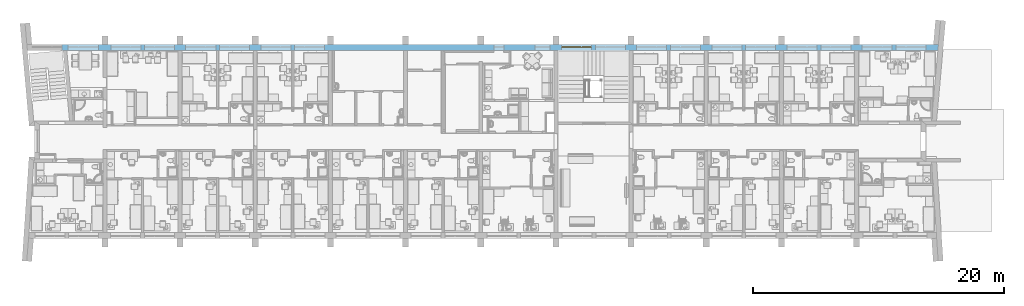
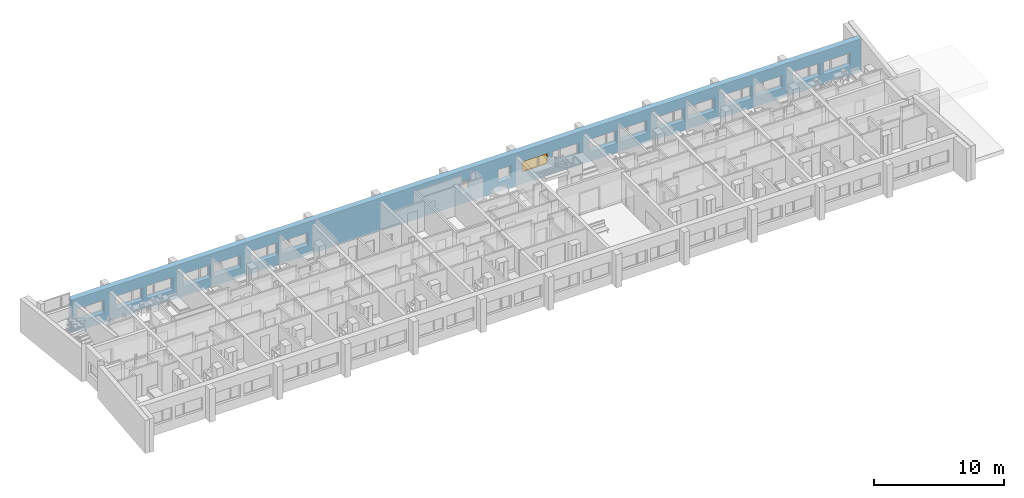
# One storey, part 24 of 172: 1 window, 19 openings, plus 1 element that does not belong to this part.
"""IFC2X3 building model written with IfcOpenShell, lengths in millimetres."""

from ifc_helpers import new_model, entity, si_unit, converted_unit, money_unit, direction, frame, origin_with_axes, place, context, subcontext, project, spatial, polyline, outline, extrude, open_shell, faceted_brep, surface_model, source, transform, mapped, material, material_list, layer, layer_set, layer_usage, type_object, element, fill, save


model = new_model("IFC2X3")

# Units and contexts
model_context = context("Model", 3, precision=1e-05, world=origin_with_axes(), true_north=direction((0.0, 1.0)))
body_context = subcontext(model_context, "Body", "Model", "MODEL_VIEW")
ifc_project = project(units=[si_unit("LENGTHUNIT", "METRE", prefix="MILLI"), si_unit("AREAUNIT", "SQUARE_METRE"), si_unit("VOLUMEUNIT", "CUBIC_METRE"), converted_unit("PLANEANGLEUNIT", "DEGREE", entity("IfcPlaneAngleMeasure", 0.0174532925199), si_unit("PLANEANGLEUNIT", "RADIAN"), dimensions=[0, 0, 0, 0, 0, 0, 0]), si_unit("SOLIDANGLEUNIT", "STERADIAN"), money_unit("USD"), converted_unit("TIMEUNIT", "Year", entity("IfcTimeMeasure", 31556926.0), si_unit("TIMEUNIT", "SECOND"), dimensions=[0, 0, 0, 0, 0, 0, 0]), si_unit("MASSUNIT", "GRAM"), si_unit("THERMODYNAMICTEMPERATUREUNIT", "DEGREE_CELSIUS"), si_unit("LUMINOUSINTENSITYUNIT", "LUMEN")], contexts=[model_context])

# Site, building, storey
site_placement = place(None, origin_with_axes())
site = spatial("IfcSite", under=ifc_project, at=site_placement, Name="Site", CompositionType="ELEMENT")
building_placement = place(site_placement, origin_with_axes())
building = spatial("IfcBuilding", under=site, at=building_placement, Name="Building", CompositionType="ELEMENT")
storey_placement = place(building_placement, frame((0.0, 0.0, 3200.0), z_axis=(0.0, 0.0, 1.0), x_axis=(1.0, 0.0, 0.0)))
storey = spatial("IfcBuildingStorey", under=building, at=storey_placement, Name="3KORRUS", CompositionType="ELEMENT", Elevation=3200.0)

# Wall, openings, window
ifc_material_1 = material(Name="Olemasolevad seinad tellis, uus viimistlus")
ifc_layer = layer(ifc_material_1, 500.0, ventilated="UNKNOWN")
ifc_layer_set = layer_set([ifc_layer], Name="Olemasolevad seinad tellis, uus viimistlus 500")
ifc_layer_usage = layer_usage(ifc_layer_set, "AXIS2", "POSITIVE", -100.0)
wall_type = type_object("IfcWallType", Name="Olemasolevad seinad tellis, uus viimistlus 500", PredefinedType="NOTDEFINED")
wall_placement = place(storey_placement, frame((-51569.3388124, -5039.6041088, 0.0), z_axis=(0.0, 0.0, 1.0), x_axis=(1.0, 0.0, 0.0)))
wall = element("IfcWallStandardCase", 1, at=wall_placement, inside=storey, type_object=wall_type, material=ifc_layer_usage, Name="VS1", ObjectType="VS1", context=body_context, shape_type="SweptSolid", body=[
    extrude(outline(polyline([(0.0, -100.0), (69914.7195482, -100.0), (69959.6995146, 400.0), (0.0, 400.0), (0.0, -100.0)])), origin_with_axes(), (0.0, 0.0, 1.0), 3100.0),
])
opening_1_placement = place(wall_placement, frame((34879.0421091, 0.0, 900.0), z_axis=(0.0, 0.0, 1.0), x_axis=(1.0, 0.0, 0.0)))
element("IfcOpeningElement", 2, at=opening_1_placement, cuts=wall, Name="WD - 001", context=body_context, shape_type="SweptSolid", body=[
    extrude(outline(polyline([(-400.0, 1200.0), (-400.0, 0.0), (400.0, 0.0), (400.0, 1200.0), (-400.0, 1200.0)])), frame((0.0, 200.0, 0.0), z_axis=(0.0, -1.0, 0.0), x_axis=(1.0, 0.0, 0.0)), (0.0, 0.0, 1.0), 800.0),
    extrude(outline(polyline([(-400.0, 0.0), (-400.0, -1200.0), (400.0, -1200.0), (400.0, 0.0), (-400.0, 0.0)])), frame((0.0, 200.0, 0.0), z_axis=(0.0, 1.0, 0.0), x_axis=(1.0, 0.0, 0.0)), (0.0, 0.0, 1.0), 700.0),
])
opening_2_placement = place(wall_placement, frame((38352.6323068, 0.0, 900.0), z_axis=(0.0, 0.0, 1.0), x_axis=(1.0, 0.0, 0.0)))
element("IfcOpeningElement", 3, at=opening_2_placement, cuts=wall, Name="A3", context=body_context, shape_type="SweptSolid", body=[
    extrude(outline(polyline([(-600.0, 1200.0), (-600.0, 0.0), (600.0, 0.0), (600.0, 1200.0), (-600.0, 1200.0)])), frame((0.0, 200.0, 0.0), z_axis=(0.0, -1.0, 0.0), x_axis=(1.0, 0.0, 0.0)), (0.0, 0.0, 1.0), 800.0),
    extrude(outline(polyline([(-600.0, 0.0), (-600.0, -1200.0), (600.0, -1200.0), (600.0, 0.0), (-600.0, 0.0)])), frame((0.0, 200.0, 0.0), z_axis=(0.0, 1.0, 0.0), x_axis=(1.0, 0.0, 0.0)), (0.0, 0.0, 1.0), 700.0),
])
opening_3_placement = place(wall_placement, frame((1700.0, 0.0, 900.0), z_axis=(0.0, 0.0, 1.0), x_axis=(1.0, 0.0, 0.0)))
element("IfcOpeningElement", 4, at=opening_3_placement, cuts=wall, Name="A1", context=body_context, shape_type="SweptSolid", body=[
    extrude(outline(polyline([(1200.0, 1200.0), (-1200.0, 1200.0), (-1200.0, 0.0), (1200.0, 0.0), (1200.0, 1200.0)])), frame((0.0, 200.0, 0.0), z_axis=(0.0, -1.0, 0.0), x_axis=(1.0, 0.0, 0.0)), (0.0, 0.0, 1.0), 800.0),
    extrude(outline(polyline([(1200.0, 0.0), (-1200.0, 0.0), (-1200.0, -1200.0), (1200.0, -1200.0), (1200.0, 0.0)])), frame((0.0, 200.0, 0.0), z_axis=(0.0, 1.0, 0.0), x_axis=(1.0, 0.0, 0.0)), (0.0, 0.0, 1.0), 700.0),
])
opening_4_placement = place(wall_placement, frame((7795.91085613, 0.0, 900.0), z_axis=(0.0, 0.0, 1.0), x_axis=(1.0, 0.0, 0.0)))
element("IfcOpeningElement", 5, at=opening_4_placement, cuts=wall, Name="A1", context=body_context, shape_type="SweptSolid", body=[
    extrude(outline(polyline([(1200.0, 1200.0), (-1200.0, 1200.0), (-1200.0, 0.0), (1200.0, 0.0), (1200.0, 1200.0)])), frame((0.0, 200.0, 0.0), z_axis=(0.0, -1.0, 0.0), x_axis=(1.0, 0.0, 0.0)), (0.0, 0.0, 1.0), 800.0),
    extrude(outline(polyline([(1200.0, 0.0), (-1200.0, 0.0), (-1200.0, -1200.0), (1200.0, -1200.0), (1200.0, 0.0)])), frame((0.0, 200.0, 0.0), z_axis=(0.0, 1.0, 0.0), x_axis=(1.0, 0.0, 0.0)), (0.0, 0.0, 1.0), 700.0),
])
opening_5_placement = place(wall_placement, frame((5095.91085613, 0.0, 900.0), z_axis=(0.0, 0.0, 1.0), x_axis=(1.0, 0.0, 0.0)))
element("IfcOpeningElement", 6, at=opening_5_placement, cuts=wall, Name="A2", context=body_context, shape_type="SweptSolid", body=[
    extrude(outline(polyline([(-1200.0, 1200.0), (-1200.0, 0.0), (1200.0, 0.0), (1200.0, 1200.0), (-1200.0, 1200.0)])), frame((0.0, 200.0, 0.0), z_axis=(0.0, -1.0, 0.0), x_axis=(1.0, 0.0, 0.0)), (0.0, 0.0, 1.0), 800.0),
    extrude(outline(polyline([(-1200.0, 0.0), (-1200.0, -1200.0), (1200.0, -1200.0), (1200.0, 0.0), (-1200.0, 0.0)])), frame((0.0, 200.0, 0.0), z_axis=(0.0, 1.0, 0.0), x_axis=(1.0, 0.0, 0.0)), (0.0, 0.0, 1.0), 700.0),
])
opening_6_placement = place(wall_placement, frame((13779.0421091, 0.0, 900.0), z_axis=(0.0, 0.0, 1.0), x_axis=(1.0, 0.0, 0.0)))
element("IfcOpeningElement", 7, at=opening_6_placement, cuts=wall, Name="A1", context=body_context, shape_type="SweptSolid", body=[
    extrude(outline(polyline([(1200.0, 1200.0), (-1200.0, 1200.0), (-1200.0, 0.0), (1200.0, 0.0), (1200.0, 1200.0)])), frame((0.0, 200.0, 0.0), z_axis=(0.0, -1.0, 0.0), x_axis=(1.0, 0.0, 0.0)), (0.0, 0.0, 1.0), 800.0),
    extrude(outline(polyline([(1200.0, 0.0), (-1200.0, 0.0), (-1200.0, -1200.0), (1200.0, -1200.0), (1200.0, 0.0)])), frame((0.0, 200.0, 0.0), z_axis=(0.0, 1.0, 0.0), x_axis=(1.0, 0.0, 0.0)), (0.0, 0.0, 1.0), 700.0),
])
opening_7_placement = place(wall_placement, frame((11079.0421091, 0.0, 900.0), z_axis=(0.0, 0.0, 1.0), x_axis=(1.0, 0.0, 0.0)))
element("IfcOpeningElement", 8, at=opening_7_placement, cuts=wall, Name="A2", context=body_context, shape_type="SweptSolid", body=[
    extrude(outline(polyline([(-1200.0, 1200.0), (-1200.0, 0.0), (1200.0, 0.0), (1200.0, 1200.0), (-1200.0, 1200.0)])), frame((0.0, 200.0, 0.0), z_axis=(0.0, -1.0, 0.0), x_axis=(1.0, 0.0, 0.0)), (0.0, 0.0, 1.0), 800.0),
    extrude(outline(polyline([(-1200.0, 0.0), (-1200.0, -1200.0), (1200.0, -1200.0), (1200.0, 0.0), (-1200.0, 0.0)])), frame((0.0, 200.0, 0.0), z_axis=(0.0, 1.0, 0.0), x_axis=(1.0, 0.0, 0.0)), (0.0, 0.0, 1.0), 700.0),
])
opening_8_placement = place(wall_placement, frame((43769.0421091, 0.0, 900.0), z_axis=(0.0, 0.0, 1.0), x_axis=(1.0, 0.0, 0.0)))
element("IfcOpeningElement", 9, at=opening_8_placement, cuts=wall, Name="A1", context=body_context, shape_type="SweptSolid", body=[
    extrude(outline(polyline([(1200.0, 1200.0), (-1200.0, 1200.0), (-1200.0, 0.0), (1200.0, 0.0), (1200.0, 1200.0)])), frame((0.0, 200.0, 0.0), z_axis=(0.0, -1.0, 0.0), x_axis=(1.0, 0.0, 0.0)), (0.0, 0.0, 1.0), 800.0),
    extrude(outline(polyline([(1200.0, 0.0), (-1200.0, 0.0), (-1200.0, -1200.0), (1200.0, -1200.0), (1200.0, 0.0)])), frame((0.0, 200.0, 0.0), z_axis=(0.0, 1.0, 0.0), x_axis=(1.0, 0.0, 0.0)), (0.0, 0.0, 1.0), 700.0),
])
opening_9_placement = place(wall_placement, frame((41069.0421091, 0.0, 900.0), z_axis=(0.0, 0.0, 1.0), x_axis=(1.0, 0.0, 0.0)))
opening_9 = element("IfcOpeningElement", 10, at=opening_9_placement, cuts=wall, Name="A2", context=body_context, shape_type="SweptSolid", body=[
    extrude(outline(polyline([(-1200.0, 1200.0), (-1200.0, 0.0), (1200.0, 0.0), (1200.0, 1200.0), (-1200.0, 1200.0)])), frame((0.0, 200.0, 0.0), z_axis=(0.0, -1.0, 0.0), x_axis=(1.0, 0.0, 0.0)), (0.0, 0.0, 1.0), 800.0),
    extrude(outline(polyline([(-1200.0, 0.0), (-1200.0, -1200.0), (1200.0, -1200.0), (1200.0, 0.0), (-1200.0, 0.0)])), frame((0.0, 200.0, 0.0), z_axis=(0.0, 1.0, 0.0), x_axis=(1.0, 0.0, 0.0)), (0.0, 0.0, 1.0), 700.0),
])
opening_10_placement = place(wall_placement, frame((49769.0421091, 0.0, 900.0), z_axis=(0.0, 0.0, 1.0), x_axis=(1.0, 0.0, 0.0)))
element("IfcOpeningElement", 11, at=opening_10_placement, cuts=wall, Name="A1", context=body_context, shape_type="SweptSolid", body=[
    extrude(outline(polyline([(1200.0, 1200.0), (-1200.0, 1200.0), (-1200.0, 0.0), (1200.0, 0.0), (1200.0, 1200.0)])), frame((0.0, 200.0, 0.0), z_axis=(0.0, -1.0, 0.0), x_axis=(1.0, 0.0, 0.0)), (0.0, 0.0, 1.0), 800.0),
    extrude(outline(polyline([(1200.0, 0.0), (-1200.0, 0.0), (-1200.0, -1200.0), (1200.0, -1200.0), (1200.0, 0.0)])), frame((0.0, 200.0, 0.0), z_axis=(0.0, 1.0, 0.0), x_axis=(1.0, 0.0, 0.0)), (0.0, 0.0, 1.0), 700.0),
])
opening_11_placement = place(wall_placement, frame((47069.0421091, 0.0, 900.0), z_axis=(0.0, 0.0, 1.0), x_axis=(1.0, 0.0, 0.0)))
element("IfcOpeningElement", 12, at=opening_11_placement, cuts=wall, Name="A2", context=body_context, shape_type="SweptSolid", body=[
    extrude(outline(polyline([(-1200.0, 1200.0), (-1200.0, 0.0), (1200.0, 0.0), (1200.0, 1200.0), (-1200.0, 1200.0)])), frame((0.0, 200.0, 0.0), z_axis=(0.0, -1.0, 0.0), x_axis=(1.0, 0.0, 0.0)), (0.0, 0.0, 1.0), 800.0),
    extrude(outline(polyline([(-1200.0, 0.0), (-1200.0, -1200.0), (1200.0, -1200.0), (1200.0, 0.0), (-1200.0, 0.0)])), frame((0.0, 200.0, 0.0), z_axis=(0.0, 1.0, 0.0), x_axis=(1.0, 0.0, 0.0)), (0.0, 0.0, 1.0), 700.0),
])
opening_12_placement = place(wall_placement, frame((55769.0421091, 0.0, 900.0), z_axis=(0.0, 0.0, 1.0), x_axis=(1.0, 0.0, 0.0)))
element("IfcOpeningElement", 13, at=opening_12_placement, cuts=wall, Name="A1", context=body_context, shape_type="SweptSolid", body=[
    extrude(outline(polyline([(1200.0, 1200.0), (-1200.0, 1200.0), (-1200.0, 0.0), (1200.0, 0.0), (1200.0, 1200.0)])), frame((0.0, 200.0, 0.0), z_axis=(0.0, -1.0, 0.0), x_axis=(1.0, 0.0, 0.0)), (0.0, 0.0, 1.0), 800.0),
    extrude(outline(polyline([(1200.0, 0.0), (-1200.0, 0.0), (-1200.0, -1200.0), (1200.0, -1200.0), (1200.0, 0.0)])), frame((0.0, 200.0, 0.0), z_axis=(0.0, 1.0, 0.0), x_axis=(1.0, 0.0, 0.0)), (0.0, 0.0, 1.0), 700.0),
])
opening_13_placement = place(wall_placement, frame((53069.0421091, 0.0, 900.0), z_axis=(0.0, 0.0, 1.0), x_axis=(1.0, 0.0, 0.0)))
element("IfcOpeningElement", 14, at=opening_13_placement, cuts=wall, Name="A2", context=body_context, shape_type="SweptSolid", body=[
    extrude(outline(polyline([(-1200.0, 1200.0), (-1200.0, 0.0), (1200.0, 0.0), (1200.0, 1200.0), (-1200.0, 1200.0)])), frame((0.0, 200.0, 0.0), z_axis=(0.0, -1.0, 0.0), x_axis=(1.0, 0.0, 0.0)), (0.0, 0.0, 1.0), 800.0),
    extrude(outline(polyline([(-1200.0, 0.0), (-1200.0, -1200.0), (1200.0, -1200.0), (1200.0, 0.0), (-1200.0, 0.0)])), frame((0.0, 200.0, 0.0), z_axis=(0.0, 1.0, 0.0), x_axis=(1.0, 0.0, 0.0)), (0.0, 0.0, 1.0), 700.0),
])
opening_14_placement = place(wall_placement, frame((61769.0421091, 0.0, 900.0), z_axis=(0.0, 0.0, 1.0), x_axis=(1.0, 0.0, 0.0)))
element("IfcOpeningElement", 15, at=opening_14_placement, cuts=wall, Name="A1", context=body_context, shape_type="SweptSolid", body=[
    extrude(outline(polyline([(1200.0, 1200.0), (-1200.0, 1200.0), (-1200.0, 0.0), (1200.0, 0.0), (1200.0, 1200.0)])), frame((0.0, 200.0, 0.0), z_axis=(0.0, -1.0, 0.0), x_axis=(1.0, 0.0, 0.0)), (0.0, 0.0, 1.0), 800.0),
    extrude(outline(polyline([(1200.0, 0.0), (-1200.0, 0.0), (-1200.0, -1200.0), (1200.0, -1200.0), (1200.0, 0.0)])), frame((0.0, 200.0, 0.0), z_axis=(0.0, 1.0, 0.0), x_axis=(1.0, 0.0, 0.0)), (0.0, 0.0, 1.0), 700.0),
])
opening_15_placement = place(wall_placement, frame((59069.0421091, 0.0, 900.0), z_axis=(0.0, 0.0, 1.0), x_axis=(1.0, 0.0, 0.0)))
element("IfcOpeningElement", 16, at=opening_15_placement, cuts=wall, Name="A2", context=body_context, shape_type="SweptSolid", body=[
    extrude(outline(polyline([(-1200.0, 1200.0), (-1200.0, 0.0), (1200.0, 0.0), (1200.0, 1200.0), (-1200.0, 1200.0)])), frame((0.0, 200.0, 0.0), z_axis=(0.0, -1.0, 0.0), x_axis=(1.0, 0.0, 0.0)), (0.0, 0.0, 1.0), 800.0),
    extrude(outline(polyline([(-1200.0, 0.0), (-1200.0, -1200.0), (1200.0, -1200.0), (1200.0, 0.0), (-1200.0, 0.0)])), frame((0.0, 200.0, 0.0), z_axis=(0.0, 1.0, 0.0), x_axis=(1.0, 0.0, 0.0)), (0.0, 0.0, 1.0), 700.0),
])
opening_16_placement = place(wall_placement, frame((67773.3244043, 0.0, 900.0), z_axis=(0.0, 0.0, 1.0), x_axis=(1.0, 0.0, 0.0)))
element("IfcOpeningElement", 17, at=opening_16_placement, cuts=wall, Name="A1", context=body_context, shape_type="SweptSolid", body=[
    extrude(outline(polyline([(1200.0, 1200.0), (-1200.0, 1200.0), (-1200.0, 0.0), (1200.0, 0.0), (1200.0, 1200.0)])), frame((0.0, 200.0, 0.0), z_axis=(0.0, -1.0, 0.0), x_axis=(1.0, 0.0, 0.0)), (0.0, 0.0, 1.0), 800.0),
    extrude(outline(polyline([(1200.0, 0.0), (-1200.0, 0.0), (-1200.0, -1200.0), (1200.0, -1200.0), (1200.0, 0.0)])), frame((0.0, 200.0, 0.0), z_axis=(0.0, 1.0, 0.0), x_axis=(1.0, 0.0, 0.0)), (0.0, 0.0, 1.0), 700.0),
])
opening_17_placement = place(wall_placement, frame((65073.3244043, 0.0, 900.0), z_axis=(0.0, 0.0, 1.0), x_axis=(1.0, 0.0, 0.0)))
element("IfcOpeningElement", 18, at=opening_17_placement, cuts=wall, Name="A2", context=body_context, shape_type="SweptSolid", body=[
    extrude(outline(polyline([(-1200.0, 1200.0), (-1200.0, 0.0), (1200.0, 0.0), (1200.0, 1200.0), (-1200.0, 1200.0)])), frame((0.0, 200.0, 0.0), z_axis=(0.0, -1.0, 0.0), x_axis=(1.0, 0.0, 0.0)), (0.0, 0.0, 1.0), 800.0),
    extrude(outline(polyline([(-1200.0, 0.0), (-1200.0, -1200.0), (1200.0, -1200.0), (1200.0, 0.0), (-1200.0, 0.0)])), frame((0.0, 200.0, 0.0), z_axis=(0.0, 1.0, 0.0), x_axis=(1.0, 0.0, 0.0)), (0.0, 0.0, 1.0), 700.0),
])
opening_18_placement = place(wall_placement, frame((19767.4765851, 0.0, 900.0), z_axis=(0.0, 0.0, 1.0), x_axis=(1.0, 0.0, 0.0)))
element("IfcOpeningElement", 19, at=opening_18_placement, cuts=wall, Name="A1", context=body_context, shape_type="SweptSolid", body=[
    extrude(outline(polyline([(1200.0, 1200.0), (-1200.0, 1200.0), (-1200.0, 0.0), (1200.0, 0.0), (1200.0, 1200.0)])), frame((0.0, 200.0, 0.0), z_axis=(0.0, -1.0, 0.0), x_axis=(1.0, 0.0, 0.0)), (0.0, 0.0, 1.0), 800.0),
    extrude(outline(polyline([(1200.0, 0.0), (-1200.0, 0.0), (-1200.0, -1200.0), (1200.0, -1200.0), (1200.0, 0.0)])), frame((0.0, 200.0, 0.0), z_axis=(0.0, 1.0, 0.0), x_axis=(1.0, 0.0, 0.0)), (0.0, 0.0, 1.0), 700.0),
])
opening_19_placement = place(wall_placement, frame((17067.4765851, 0.0, 900.0), z_axis=(0.0, 0.0, 1.0), x_axis=(1.0, 0.0, 0.0)))
element("IfcOpeningElement", 20, at=opening_19_placement, cuts=wall, Name="A2", context=body_context, shape_type="SweptSolid", body=[
    extrude(outline(polyline([(-1200.0, 1200.0), (-1200.0, 0.0), (1200.0, 0.0), (1200.0, 1200.0), (-1200.0, 1200.0)])), frame((0.0, 200.0, 0.0), z_axis=(0.0, -1.0, 0.0), x_axis=(1.0, 0.0, 0.0)), (0.0, 0.0, 1.0), 800.0),
    extrude(outline(polyline([(-1200.0, 0.0), (-1200.0, -1200.0), (1200.0, -1200.0), (1200.0, 0.0), (-1200.0, 0.0)])), frame((0.0, 200.0, 0.0), z_axis=(0.0, 1.0, 0.0), x_axis=(1.0, 0.0, 0.0)), (0.0, 0.0, 1.0), 700.0),
])
ifc_material_2 = material(Name="Background")
ifc_material_list = material_list([ifc_material_2])
window_style = type_object("IfcWindowStyle", Name="Double Window 19", ConstructionType="NOTDEFINED", OperationType="DOUBLE_PANEL_VERTICAL", ParameterTakesPrecedence=False, Sizeable=False)
shared_shape = source(origin_with_axes(), body_context, "Body", "SurfaceModel", [
    faceted_brep([(-1175.0, -200.0, 1150.0), (-1200.0, -200.0, 1150.0), (-1200.0, -250.0, 1150.0), (-1150.0, -250.0, 1150.0), (-1150.0, -225.0, 1150.0), (-1175.0, -225.0, 1150.0), (-1175.0, -200.0, 50.0), (-1200.0, -200.0, 50.0), (-1200.0, -250.0, 50.0), (-1150.0, -250.0, 50.0), (-1150.0, -225.0, 50.0), (-1175.0, -225.0, 50.0)], [[[0, 1, 2, 3, 4, 5]], [[6, 7, 1, 0]], [[1, 7, 8, 2]], [[2, 8, 9, 3]], [[4, 3, 9, 10]], [[10, 11, 5, 4]], [[5, 11, 6, 0]], [[11, 10, 9, 8, 7, 6]]]),
    faceted_brep([(1150.0, -225.0, 1150.0), (1150.0, -250.0, 1150.0), (1200.0, -250.0, 1150.0), (1200.0, -200.0, 1150.0), (1175.0, -200.0, 1150.0), (1175.0, -225.0, 1150.0), (1150.0, -225.0, 50.0), (1150.0, -250.0, 50.0), (1200.0, -250.0, 50.0), (1200.0, -200.0, 50.0), (1175.0, -200.0, 50.0), (1175.0, -225.0, 50.0)], [[[0, 1, 2, 3, 4, 5]], [[6, 7, 1, 0]], [[8, 2, 1, 7]], [[9, 3, 2, 8]], [[4, 3, 9, 10]], [[10, 11, 5, 4]], [[5, 11, 6, 0]], [[11, 10, 9, 8, 7, 6]]]),
    faceted_brep([(350.0, -225.0, 1150.0), (350.0, -250.0, 1150.0), (450.0, -250.0, 1150.0), (450.0, -225.0, 1150.0), (425.0, -225.0, 1150.0), (425.0, -200.0, 1150.0), (375.0, -200.0, 1150.0), (375.0, -225.0, 1150.0), (350.0, -225.0, 50.0), (350.0, -250.0, 50.0), (450.0, -250.0, 50.0), (450.0, -225.0, 50.0), (425.0, -225.0, 50.0), (425.0, -200.0, 50.0), (375.0, -200.0, 50.0), (375.0, -225.0, 50.0)], [[[0, 1, 2, 3, 4, 5, 6, 7]], [[8, 9, 1, 0]], [[10, 2, 1, 9]], [[3, 2, 10, 11]], [[11, 12, 4, 3]], [[4, 12, 13, 5]], [[6, 5, 13, 14]], [[14, 15, 7, 6]], [[7, 15, 8, 0]], [[15, 14, 13, 12, 11, 10, 9, 8]]]),
    faceted_brep([(350.0, -225.0, 50.0), (350.0, -250.0, 50.0), (450.0, -250.0, 50.0), (450.0, -225.0, 50.0), (425.0, -225.0, 50.0), (425.0, -200.0, 50.0), (375.0, -200.0, 50.0), (375.0, -225.0, 50.0), (-1150.0, -225.0, 50.0), (-1150.0, -250.0, 50.0), (-1200.0, -250.0, 50.0), (-1200.0, -250.0, 0.0), (1200.0, -250.0, 0.0), (1200.0, -250.0, 50.0), (1150.0, -250.0, 50.0), (1150.0, -225.0, 50.0), (1175.0, -225.0, 50.0), (1175.0, -225.0, 25.0), (425.0, -225.0, 25.0), (425.0, -200.0, 25.0), (-1175.0, -200.0, 25.0), (375.0, -200.0, 25.0), (1175.0, -200.0, 25.0), (1175.0, -200.0, 50.0), (1200.0, -200.0, 50.0), (1200.0, -200.0, 0.0), (-1200.0, -200.0, 0.0), (-1200.0, -200.0, 50.0), (-1175.0, -200.0, 50.0), (375.0, -225.0, 25.0), (-1175.0, -225.0, 25.0), (-1175.0, -225.0, 50.0)], [[[0, 1, 2, 3, 4, 5, 6, 7]], [[8, 9, 1, 0]], [[10, 11, 12, 13, 14, 2, 1, 9]], [[3, 2, 14, 15]], [[16, 17, 18, 4, 3, 15]], [[4, 18, 19, 5]], [[20, 21, 6, 5, 19, 22, 23, 24, 25, 26, 27, 28]], [[21, 29, 7, 6]], [[7, 29, 30, 31, 8, 0]], [[31, 28, 27, 10, 9, 8]], [[27, 26, 11, 10]], [[26, 25, 12, 11]], [[25, 24, 13, 12]], [[15, 14, 13, 24, 23, 16]], [[22, 17, 16, 23]], [[19, 18, 17, 22]], [[20, 30, 29, 21]], [[31, 30, 20, 28]]]),
    faceted_brep([(-1175.0, -200.0, 1150.0), (-1200.0, -200.0, 1150.0), (-1200.0, -200.0, 1200.0), (1200.0, -200.0, 1200.0), (1200.0, -200.0, 1150.0), (1175.0, -200.0, 1150.0), (1175.0, -200.0, 1175.0), (425.0, -200.0, 1175.0), (425.0, -200.0, 1150.0), (375.0, -200.0, 1150.0), (375.0, -200.0, 1175.0), (-1175.0, -200.0, 1175.0), (-1175.0, -225.0, 1150.0), (-1150.0, -225.0, 1150.0), (-1150.0, -250.0, 1150.0), (-1200.0, -250.0, 1150.0), (-1200.0, -250.0, 1200.0), (1200.0, -250.0, 1200.0), (1200.0, -250.0, 1150.0), (1175.0, -225.0, 1150.0), (1150.0, -250.0, 1150.0), (1150.0, -225.0, 1150.0), (1175.0, -225.0, 1175.0), (425.0, -225.0, 1175.0), (425.0, -225.0, 1150.0), (375.0, -225.0, 1150.0), (450.0, -225.0, 1150.0), (450.0, -250.0, 1150.0), (350.0, -250.0, 1150.0), (350.0, -225.0, 1150.0), (375.0, -225.0, 1175.0), (-1175.0, -225.0, 1175.0)], [[[0, 1, 2, 3, 4, 5, 6, 7, 8, 9, 10, 11]], [[12, 13, 14, 15, 1, 0]], [[2, 1, 15, 16]], [[3, 2, 16, 17]], [[4, 3, 17, 18]], [[19, 5, 4, 18, 20, 21]], [[5, 19, 22, 6]], [[6, 22, 23, 7]], [[7, 23, 24, 8]], [[25, 9, 8, 24, 26, 27, 28, 29]], [[9, 25, 30, 10]], [[10, 30, 31, 11]], [[11, 31, 12, 0]], [[29, 13, 12, 31, 30, 25]], [[29, 28, 14, 13]], [[27, 20, 18, 17, 16, 15, 14, 28]], [[21, 20, 27, 26]], [[21, 26, 24, 23, 22, 19]]]),
    faceted_brep([(-1125.0, -225.0, 1125.0), (-1125.0, -175.0, 1125.0), (-1175.0, -175.0, 1125.0), (-1175.0, -225.0, 1125.0), (-1125.0, -225.0, 75.0), (-1125.0, -175.0, 75.0), (-1175.0, -175.0, 75.0), (-1175.0, -225.0, 75.0)], [[[0, 1, 2, 3]], [[4, 5, 1, 0]], [[1, 5, 6, 2]], [[3, 2, 6, 7]], [[0, 3, 7, 4]], [[7, 6, 5, 4]]]),
    faceted_brep([(325.0, -225.0, 75.0), (325.0, -175.0, 75.0), (375.0, -175.0, 75.0), (375.0, -225.0, 75.0), (325.0, -225.0, 1125.0), (325.0, -175.0, 1125.0), (375.0, -175.0, 1125.0), (375.0, -225.0, 1125.0)], [[[0, 1, 2, 3]], [[4, 5, 1, 0]], [[1, 5, 6, 2]], [[3, 2, 6, 7]], [[0, 3, 7, 4]], [[7, 6, 5, 4]]]),
    faceted_brep([(375.0, -225.0, 25.0), (375.0, -175.0, 25.0), (375.0, -175.0, 75.0), (375.0, -225.0, 75.0), (-1175.0, -225.0, 25.0), (-1175.0, -175.0, 25.0), (-1175.0, -175.0, 75.0), (-1125.0, -175.0, 75.0), (325.0, -175.0, 75.0), (325.0, -225.0, 75.0), (-1125.0, -225.0, 75.0), (-1175.0, -225.0, 75.0)], [[[0, 1, 2, 3]], [[4, 5, 1, 0]], [[1, 5, 6, 7, 8, 2]], [[3, 2, 8, 9]], [[0, 3, 9, 10, 11, 4]], [[11, 6, 5, 4]], [[10, 7, 6, 11]], [[9, 8, 7, 10]]]),
    faceted_brep([(-1175.0, -225.0, 1175.0), (-1175.0, -175.0, 1175.0), (-1175.0, -175.0, 1125.0), (-1175.0, -225.0, 1125.0), (375.0, -225.0, 1175.0), (375.0, -175.0, 1175.0), (375.0, -175.0, 1125.0), (325.0, -175.0, 1125.0), (-1125.0, -175.0, 1125.0), (-1125.0, -225.0, 1125.0), (325.0, -225.0, 1125.0), (375.0, -225.0, 1125.0)], [[[0, 1, 2, 3]], [[4, 5, 1, 0]], [[1, 5, 6, 7, 8, 2]], [[3, 2, 8, 9]], [[0, 3, 9, 10, 11, 4]], [[11, 6, 5, 4]], [[10, 7, 6, 11]], [[9, 8, 7, 10]]]),
    surface_model("IfcShellBasedSurfaceModel", [(-1125.0, -210.0, 75.0), (325.0, -210.0, 75.0), (325.0, -210.0, 1125.0), (-1125.0, -210.0, 1125.0)], [open_shell([[[0, 1, 2, 3]]])]),
    surface_model("IfcShellBasedSurfaceModel", [(-1125.0, -190.0, 75.0), (-1125.0, -190.0, 1125.0), (325.0, -190.0, 1125.0), (325.0, -190.0, 75.0)], [open_shell([[[0, 1, 2, 3]]])]),
    faceted_brep([(475.0, -225.0, 1125.0), (475.0, -175.0, 1125.0), (425.0, -175.0, 1125.0), (425.0, -225.0, 1125.0), (475.0, -225.0, 75.0), (475.0, -175.0, 75.0), (425.0, -175.0, 75.0), (425.0, -225.0, 75.0)], [[[0, 1, 2, 3]], [[4, 5, 1, 0]], [[1, 5, 6, 2]], [[3, 2, 6, 7]], [[0, 3, 7, 4]], [[7, 6, 5, 4]]]),
    faceted_brep([(1125.0, -225.0, 75.0), (1125.0, -175.0, 75.0), (1175.0, -175.0, 75.0), (1175.0, -225.0, 75.0), (1125.0, -225.0, 1125.0), (1125.0, -175.0, 1125.0), (1175.0, -175.0, 1125.0), (1175.0, -225.0, 1125.0)], [[[0, 1, 2, 3]], [[4, 5, 1, 0]], [[1, 5, 6, 2]], [[3, 2, 6, 7]], [[0, 3, 7, 4]], [[7, 6, 5, 4]]]),
    faceted_brep([(1175.0, -225.0, 25.0), (1175.0, -175.0, 25.0), (1175.0, -175.0, 75.0), (1175.0, -225.0, 75.0), (425.0, -225.0, 25.0), (425.0, -175.0, 25.0), (425.0, -175.0, 75.0), (475.0, -175.0, 75.0), (1125.0, -175.0, 75.0), (1125.0, -225.0, 75.0), (475.0, -225.0, 75.0), (425.0, -225.0, 75.0)], [[[0, 1, 2, 3]], [[4, 5, 1, 0]], [[1, 5, 6, 7, 8, 2]], [[3, 2, 8, 9]], [[0, 3, 9, 10, 11, 4]], [[11, 6, 5, 4]], [[10, 7, 6, 11]], [[9, 8, 7, 10]]]),
    faceted_brep([(425.0, -225.0, 1175.0), (425.0, -175.0, 1175.0), (425.0, -175.0, 1125.0), (425.0, -225.0, 1125.0), (1175.0, -225.0, 1175.0), (1175.0, -175.0, 1175.0), (1175.0, -175.0, 1125.0), (1125.0, -175.0, 1125.0), (475.0, -175.0, 1125.0), (475.0, -225.0, 1125.0), (1125.0, -225.0, 1125.0), (1175.0, -225.0, 1125.0)], [[[0, 1, 2, 3]], [[4, 5, 1, 0]], [[1, 5, 6, 7, 8, 2]], [[3, 2, 8, 9]], [[0, 3, 9, 10, 11, 4]], [[11, 6, 5, 4]], [[10, 7, 6, 11]], [[9, 8, 7, 10]]]),
    surface_model("IfcShellBasedSurfaceModel", [(475.0, -210.0, 75.0), (1125.0, -210.0, 75.0), (1125.0, -210.0, 1125.0), (475.0, -210.0, 1125.0)], [open_shell([[[0, 1, 2, 3]]])]),
    surface_model("IfcShellBasedSurfaceModel", [(475.0, -190.0, 75.0), (475.0, -190.0, 1125.0), (1125.0, -190.0, 1125.0), (1125.0, -190.0, 75.0)], [open_shell([[[0, 1, 2, 3]]])]),
])
window_placement = place(opening_9_placement, frame((-1200.0, 0.0, 0.0), z_axis=(0.0, 0.0, 1.0), x_axis=(1.0, 0.0, 0.0)))
window = element("IfcWindow", 21, at=window_placement, inside=storey, type_object=window_style, material=ifc_material_list, Name="A2", ObjectType="A2", OverallHeight=1200.0, OverallWidth=2400.0, context=body_context, shape_type="MappedRepresentation", body=[
    mapped(shared_shape, transform((1200.0, 400.0, 0.0))),
])
fill(opening_9, window)

save(model, "model.ifc")
